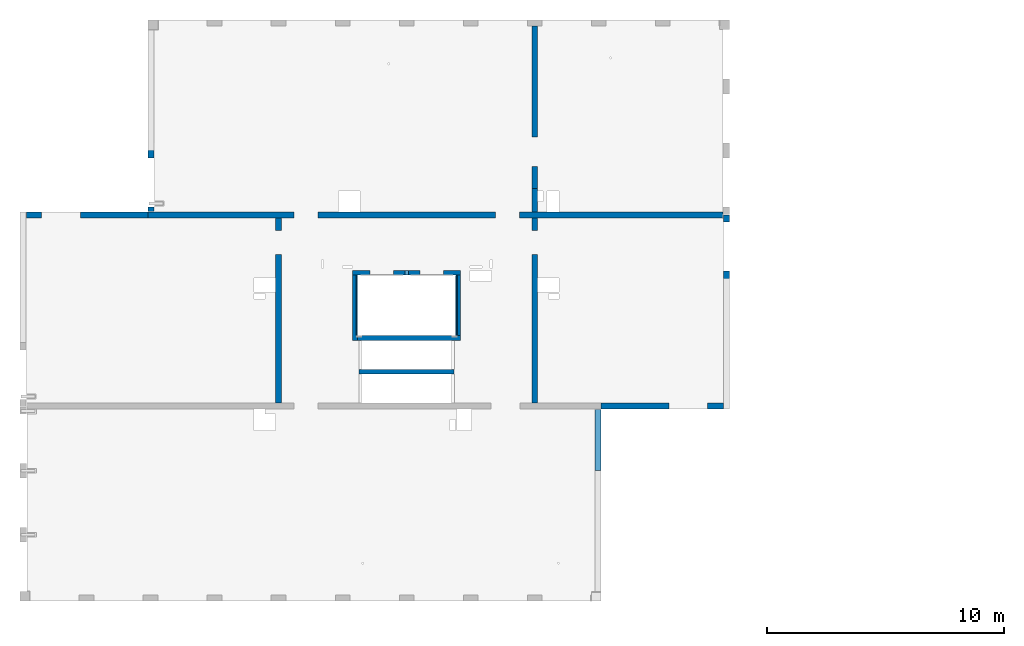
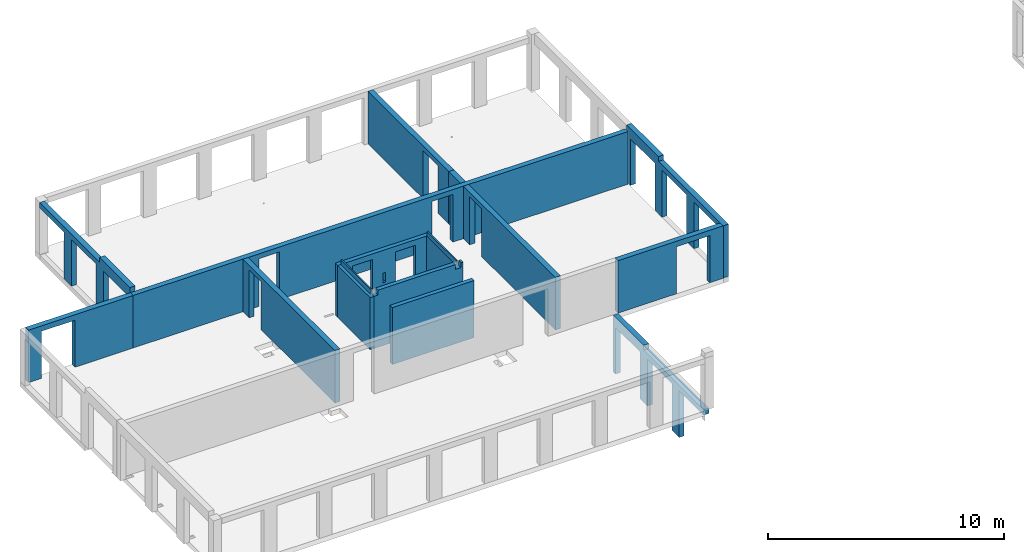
# One storey, part 3 of 12: 17 walls, 24 openings.
"""IFC2X3 building model written with IfcOpenShell, lengths in millimetres."""

from ifc_helpers import new_model, entity, si_unit, converted_unit, derived_unit, direction, frame, frame_2d, origin, origin_2d_with_axis, place, context, subcontext, project, spatial, rectangle, extrude, material, layer, layer_set, layer_usage, type_object, element, save


model = new_model("IFC2X3")

# Units and contexts
model_context = context("Model", 3, precision=0.01, world=origin(), true_north=direction((6.12303176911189e-17, 1.0)))
body_context = subcontext(model_context, "Body", "Model", "MODEL_VIEW")
ifc_project = project(units=[si_unit("LENGTHUNIT", "METRE", prefix="MILLI"), si_unit("AREAUNIT", "SQUARE_METRE"), si_unit("VOLUMEUNIT", "CUBIC_METRE"), converted_unit("PLANEANGLEUNIT", "DEGREE", entity("IfcRatioMeasure", 0.0174532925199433), si_unit("PLANEANGLEUNIT", "RADIAN"), dimensions=[0, 0, 0, 0, 0, 0, 0]), si_unit("MASSUNIT", "GRAM", prefix="KILO"), derived_unit("MASSDENSITYUNIT", [(si_unit("MASSUNIT", "GRAM", prefix="KILO"), 1), (si_unit("LENGTHUNIT", "METRE"), -3)]), si_unit("TIMEUNIT", "SECOND"), si_unit("FREQUENCYUNIT", "HERTZ"), si_unit("THERMODYNAMICTEMPERATUREUNIT", "DEGREE_CELSIUS"), derived_unit("THERMALTRANSMITTANCEUNIT", [(si_unit("MASSUNIT", "GRAM", prefix="KILO"), 1), (si_unit("THERMODYNAMICTEMPERATUREUNIT", "KELVIN"), -1), (si_unit("TIMEUNIT", "SECOND"), -3)]), derived_unit("VOLUMETRICFLOWRATEUNIT", [(si_unit("LENGTHUNIT", "METRE"), 3), (si_unit("TIMEUNIT", "SECOND"), -1)]), si_unit("ELECTRICCURRENTUNIT", "AMPERE"), si_unit("ELECTRICVOLTAGEUNIT", "VOLT"), si_unit("POWERUNIT", "WATT"), si_unit("FORCEUNIT", "NEWTON", prefix="KILO"), si_unit("ILLUMINANCEUNIT", "LUX"), si_unit("LUMINOUSFLUXUNIT", "LUMEN"), si_unit("LUMINOUSINTENSITYUNIT", "CANDELA"), derived_unit("USERDEFINED", [(si_unit("MASSUNIT", "GRAM", prefix="KILO"), -1), (si_unit("LENGTHUNIT", "METRE"), -2), (si_unit("TIMEUNIT", "SECOND"), 3), (si_unit("LUMINOUSFLUXUNIT", "LUMEN"), 1)]), derived_unit("LINEARVELOCITYUNIT", [(si_unit("LENGTHUNIT", "METRE"), 1), (si_unit("TIMEUNIT", "SECOND"), -1)]), si_unit("PRESSUREUNIT", "PASCAL"), derived_unit("USERDEFINED", [(si_unit("LENGTHUNIT", "METRE"), -2), (si_unit("MASSUNIT", "GRAM", prefix="KILO"), 1), (si_unit("TIMEUNIT", "SECOND"), -2)])], contexts=[model_context])

# Site, building, storey
site_placement = place(None, origin())
site = spatial("IfcSite", under=ifc_project, at=site_placement, Name="Default", CompositionType="ELEMENT")
building_placement = place(site_placement, origin())
building = spatial("IfcBuilding", under=site, at=building_placement, Name="niet gebruiken", CompositionType="ELEMENT")
storey_placement = place(building_placement, frame((0.0, 0.0, 24480.0)))
storey = spatial("IfcBuildingStorey", under=building, at=storey_placement, Name="08 achtste verdieping", CompositionType="ELEMENT", Elevation=24480.0)

# Wall, opening
ifc_material_1 = material(Name="NLRS_f2_beton ihwg")
ifc_layer_1 = layer(ifc_material_1, 250.0)
ifc_layer_set_1 = layer_set([ifc_layer_1], Name="Basic Wall:NLRS_22.21_WA_beton ihwg d=250_gen")
ifc_layer_usage_1 = layer_usage(ifc_layer_set_1, "AXIS2", "NEGATIVE", 125.0)
wall_type_1 = type_object("IfcWallType", Name="Basic Wall:NLRS_22.21_WA_beton ihwg d=250_gen", PredefinedType="STANDARD", material=ifc_layer_set_1)
wall_1_placement = place(storey_placement, frame((27170.0, 45031.0, -90.0)))
wall_1 = element("IfcWallStandardCase", 1, at=wall_1_placement, inside=storey, type_object=wall_type_1, material=ifc_layer_usage_1, Name="Basic Wall:NLRS_22.21_WA_beton ihwg d=250_gen", ObjectType="Basic Wall:NLRS_22.21_WA_beton ihwg d=250_gen", context=body_context, shape_type="SweptSolid", body=[
    extrude(rectangle(XDim=5130.0, YDim=249.999999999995, at=frame_2d((2565.0, 0.0), x_axis=(-1.0, 0.0))), origin(), (0.0, 0.0, 1.0), 2719.99999999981),
])
opening_1_placement = place(wall_1_placement, origin())
element("IfcOpeningElement", 2, at=opening_1_placement, cuts=wall_1, Name="Basic Wall:NLRS_22.21_WA_beton ihwg d=250_gen", ObjectType="Opening", context=body_context, shape_type="SweptSolid", body=[
    extrude(rectangle(XDim=2440.0, YDim=1640.0, at=origin_2d_with_axis()), frame((1460.0, -1649.0, 1220.0), z_axis=(0.0, 1.0, 0.0), x_axis=(0.0, 0.0, 1.0)), (0.0, 0.0, 1.0), 3048.0),
])

ifc_layer_usage_2 = layer_usage(ifc_layer_set_1, "AXIS2", "NEGATIVE", 125.0)
wall_2_placement = place(storey_placement, frame((37800.0, 44906.0, -90.0), z_axis=(0.0, 0.0, 1.0), x_axis=(0.0, -1.0, 0.0)))
wall_2 = element("IfcWallStandardCase", 3, at=wall_2_placement, inside=storey, type_object=wall_type_1, material=ifc_layer_usage_2, Name="Basic Wall:NLRS_22.21_WA_beton ihwg d=250_gen", ObjectType="Basic Wall:NLRS_22.21_WA_beton ihwg d=250_gen", context=body_context, shape_type="SweptSolid", body=[
    extrude(rectangle(XDim=7799.99999999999, YDim=250.000000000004, at=frame_2d((3900.0, 0.0), x_axis=(-1.0, 0.0))), origin(), (0.0, 0.0, 1.0), 2719.99999999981),
])
opening_2_placement = place(wall_2_placement, origin())
element("IfcOpeningElement", 4, at=opening_2_placement, cuts=wall_2, Name="Basic Wall:NLRS_22.21_WA_beton ihwg d=250_gen", ObjectType="Opening", context=body_context, shape_type="SweptSolid", body=[
    extrude(rectangle(XDim=2470.0, YDim=1006.0, at=frame_2d((-4.43378667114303e-12, 0.0), x_axis=(1.0, 0.0))), frame((1027.0, -1649.0, 1235.0), z_axis=(0.0, 1.0, 0.0), x_axis=(0.0, 0.0, 1.0)), (0.0, 0.0, 1.0), 3048.0),
])

ifc_layer_usage_3 = layer_usage(ifc_layer_set_1, "AXIS2", "NEGATIVE", 125.0)
wall_3_placement = place(storey_placement, frame((48600.0, 53006.0, -90.0), z_axis=(0.0, 0.0, 1.0), x_axis=(0.0, -1.0, 0.0)))
wall_3 = element("IfcWallStandardCase", 5, at=wall_3_placement, inside=storey, type_object=wall_type_1, material=ifc_layer_usage_3, Name="Basic Wall:NLRS_22.21_WA_beton ihwg d=250_gen", ObjectType="Basic Wall:NLRS_22.21_WA_beton ihwg d=250_gen", context=body_context, shape_type="SweptSolid", body=[
    extrude(rectangle(XDim=6850.00000000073, YDim=249.999999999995, at=frame_2d((3425.00000000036, -1.10134124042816e-12), x_axis=(-1.0, 0.0))), origin(), (0.0, 0.0, 1.0), 2719.99999999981),
])
opening_3_placement = place(wall_3_placement, origin())
element("IfcOpeningElement", 6, at=opening_3_placement, cuts=wall_3, Name="Basic Wall:NLRS_22.21_WA_beton ihwg d=250_gen", ObjectType="Opening", context=body_context, shape_type="SweptSolid", body=[
    extrude(rectangle(XDim=2470.0, YDim=1240.0, at=frame_2d((-4.43378667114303e-12, 4.37694325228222e-12), x_axis=(1.0, 0.0))), frame((5300.0, -1649.0, 1235.0), z_axis=(0.0, 1.0, 0.0), x_axis=(0.0, 0.0, 1.0)), (0.0, 0.0, 1.0), 3048.0),
])

ifc_layer_usage_4 = layer_usage(ifc_layer_set_1, "AXIS2", "NEGATIVE", 125.0)
wall_4_placement = place(storey_placement, frame((48600.0, 44906.0, -90.0), z_axis=(0.0, 0.0, 1.0), x_axis=(0.0, -1.0, 0.0)))
wall_4 = element("IfcWallStandardCase", 7, at=wall_4_placement, inside=storey, type_object=wall_type_1, material=ifc_layer_usage_4, Name="Basic Wall:NLRS_22.21_WA_beton ihwg d=250_gen", ObjectType="Basic Wall:NLRS_22.21_WA_beton ihwg d=250_gen", context=body_context, shape_type="SweptSolid", body=[
    extrude(rectangle(XDim=7799.99999999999, YDim=249.999999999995, at=frame_2d((3900.0, 0.0), x_axis=(-1.0, 0.0))), origin(), (0.0, 0.0, 1.0), 2719.99999999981),
])
opening_4_placement = place(wall_4_placement, origin())
element("IfcOpeningElement", 8, at=opening_4_placement, cuts=wall_4, Name="Basic Wall:NLRS_22.21_WA_beton ihwg d=250_gen", ObjectType="Opening", context=body_context, shape_type="SweptSolid", body=[
    extrude(rectangle(XDim=2470.0, YDim=1006.0, at=origin_2d_with_axis()), frame((1027.0, -1649.0, 1235.0), z_axis=(0.0, 1.0, 0.0), x_axis=(0.0, 0.0, 1.0)), (0.0, 0.0, 1.0), 3048.0),
])

# Wall, openings
ifc_layer_usage_5 = layer_usage(ifc_layer_set_1, "AXIS2", "NEGATIVE", 125.0)
wall_5_placement = place(storey_placement, frame((32300.0, 45031.0, -90.0)))
wall_5 = element("IfcWallStandardCase", 9, at=wall_5_placement, inside=storey, type_object=wall_type_1, material=ifc_layer_usage_5, Name="Basic Wall:NLRS_22.21_WA_beton ihwg d=250_gen", ObjectType="Basic Wall:NLRS_22.21_WA_beton ihwg d=250_gen", context=body_context, shape_type="SweptSolid", body=[
    extrude(rectangle(XDim=24230.0000000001, YDim=249.999999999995, at=frame_2d((12115.0000000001, 0.0), x_axis=(-1.0, 0.0))), origin(), (0.0, 0.0, 1.0), 2719.99999999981),
])
opening_5_placement = place(wall_5_placement, origin())
element("IfcOpeningElement", 10, at=opening_5_placement, cuts=wall_5, Name="Basic Wall:NLRS_22.21_WA_beton ihwg d=250_gen", ObjectType="Opening", context=body_context, shape_type="SweptSolid", body=[
    extrude(rectangle(XDim=2470.0, YDim=1006.0, at=origin_2d_with_axis()), frame((15148.0, -1649.0, 1235.0), z_axis=(0.0, 1.0, 0.0), x_axis=(0.0, 0.0, 1.0)), (0.0, 0.0, 1.0), 3048.0),
])
opening_6_placement = place(wall_5_placement, origin())
element("IfcOpeningElement", 11, at=opening_6_placement, cuts=wall_5, Name="Basic Wall:NLRS_22.21_WA_beton ihwg d=250_gen", ObjectType="Opening", context=body_context, shape_type="SweptSolid", body=[
    extrude(rectangle(XDim=2470.0, YDim=1006.0, at=frame_2d((0.0, -2.1600499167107e-12), x_axis=(1.0, 0.0))), frame((6652.0, -1649.0, 1235.0), z_axis=(0.0, 1.0, 0.0), x_axis=(0.0, 0.0, 1.0)), (0.0, 0.0, 1.0), 3048.0),
])

# Wall, opening
ifc_layer_usage_6 = layer_usage(ifc_layer_set_1, "AXIS2", "NEGATIVE", 125.0)
wall_6_placement = place(storey_placement, frame((51400.0, 36981.0, -90.0)))
wall_6 = element("IfcWallStandardCase", 12, at=wall_6_placement, inside=storey, type_object=wall_type_1, material=ifc_layer_usage_6, Name="Basic Wall:NLRS_22.21_WA_beton ihwg d=250_gen", ObjectType="Basic Wall:NLRS_22.21_WA_beton ihwg d=250_gen", context=body_context, shape_type="SweptSolid", body=[
    extrude(rectangle(XDim=5150.0, YDim=250.000000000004, at=frame_2d((2575.0, 0.0), x_axis=(-1.0, 0.0))), origin(), (0.0, 0.0, 1.0), 2719.99999999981),
])
opening_7_placement = place(wall_6_placement, origin())
element("IfcOpeningElement", 13, at=opening_7_placement, cuts=wall_6, Name="Basic Wall:NLRS_22.21_WA_beton ihwg d=250_gen", ObjectType="Opening", context=body_context, shape_type="SweptSolid", body=[
    extrude(rectangle(XDim=2440.0, YDim=1640.0, at=frame_2d((4.37694325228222e-12, -2.1600499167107e-12), x_axis=(0.0, 1.0))), frame((3670.0, -1399.0, 1220.0), z_axis=(0.0, 1.0, 0.0), x_axis=(-1.0, 0.0, 0.0)), (0.0, 0.0, 1.0), 3048.0),
])

# Wall
ifc_layer_usage_7 = layer_usage(ifc_layer_set_1, "AXIS2", "NEGATIVE", 125.0)
wall_7_placement = place(storey_placement, frame((48600.0, 46156.0, -90.0), z_axis=(0.0, 0.0, 1.0), x_axis=(0.0, -1.0, 0.0)))
element("IfcWallStandardCase", 14, at=wall_7_placement, inside=storey, type_object=wall_type_1, material=ifc_layer_usage_7, Name="Basic Wall:NLRS_22.21_WA_beton ihwg d=250_gen", ObjectType="Basic Wall:NLRS_22.21_WA_beton ihwg d=250_gen", context=body_context, shape_type="SweptSolid", body=[
    extrude(rectangle(XDim=999.999999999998, YDim=249.999999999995, at=frame_2d((499.999999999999, 1.10134124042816e-12), x_axis=(-1.0, 0.0))), origin(), (0.0, 0.0, 1.0), 2719.99999999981),
])

# Wall, openings
ifc_material_2 = material(Name="NLRS_f2_beton prefab")
ifc_layer_2 = layer(ifc_material_2, 250.0)
ifc_layer_set_2 = layer_set([ifc_layer_2], Name="Basic Wall:NLRS_21.21_WA_beton prefab d=250_gen")
ifc_layer_usage_8 = layer_usage(ifc_layer_set_2, "AXIS2", "NEGATIVE", 125.0)
wall_type_2 = type_object("IfcWallType", Name="Basic Wall:NLRS_21.21_WA_beton prefab d=250_gen", PredefinedType="STANDARD", material=ifc_layer_set_2)
wall_8_placement = place(storey_placement, frame((51275.0, 29166.0, -3040.0), z_axis=(0.0, 0.0, 1.0), x_axis=(0.0, 1.0, 0.0)))
wall_8 = element("IfcWallStandardCase", 15, at=wall_8_placement, inside=storey, type_object=wall_type_2, material=ifc_layer_usage_8, Name="Basic Wall:NLRS_21.21_WA_beton prefab d=250_gen", ObjectType="Basic Wall:NLRS_21.21_WA_beton prefab d=250_gen", context=body_context, shape_type="SweptSolid", body=[
    extrude(rectangle(XDim=7669.99999999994, YDim=249.999999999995, at=frame_2d((3834.99999999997, 0.0), x_axis=(-1.0, 0.0))), origin(), (0.0, 0.0, 1.0), 2949.99999999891),
])
opening_8_placement = place(wall_8_placement, origin())
element("IfcOpeningElement", 16, at=opening_8_placement, cuts=wall_8, Name="Basic Wall:NLRS_21.21_WA_beton prefab d=250_gen", ObjectType="Opening", context=body_context, shape_type="SweptSolid", body=[
    extrude(rectangle(XDim=2420.0, YDim=2080.0, at=frame_2d((-2.1600499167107e-12, 2.1600499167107e-12), x_axis=(0.0, 1.0))), frame((1040.0, -1399.0, 1210.0), z_axis=(0.0, 1.0, 0.0), x_axis=(-1.0, 0.0, 0.0)), (0.0, 0.0, 1.0), 3048.0),
])
opening_9_placement = place(wall_8_placement, origin())
element("IfcOpeningElement", 17, at=opening_9_placement, cuts=wall_8, Name="Basic Wall:NLRS_21.21_WA_beton prefab d=250_gen", ObjectType="Opening", context=body_context, shape_type="SweptSolid", body=[
    extrude(rectangle(XDim=2420.0, YDim=2080.0, at=frame_2d((2.1600499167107e-12, -2.1600499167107e-12), x_axis=(0.0, 1.0))), frame((3740.0, -1399.0, 1210.0), z_axis=(0.0, 1.0, 0.0), x_axis=(-1.0, 0.0, 0.0)), (0.0, 0.0, 1.0), 3048.0),
])
opening_10_placement = place(wall_8_placement, origin())
element("IfcOpeningElement", 18, at=opening_10_placement, cuts=wall_8, Name="Basic Wall:NLRS_21.21_WA_beton prefab d=250_gen", ObjectType="Opening", context=body_context, shape_type="SweptSolid", body=[
    extrude(rectangle(XDim=2420.0, YDim=2080.0, at=frame_2d((2.1600499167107e-12, -2.1600499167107e-12), x_axis=(0.0, 1.0))), frame((6440.0, -1399.0, 1210.0), z_axis=(0.0, 1.0, 0.0), x_axis=(-1.0, 0.0, 0.0)), (0.0, 0.0, 1.0), 3048.0),
])
opening_11_placement = place(wall_8_placement, origin())
element("IfcOpeningElement", 19, at=opening_11_placement, cuts=wall_8, Name="Basic Wall:NLRS_21.21_WA_beton prefab d=250_gen", ObjectType="Opening", context=body_context, shape_type="SweptSolid", body=[
    extrude(rectangle(XDim=249.999999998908, YDim=5090.00000000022, at=frame_2d((0.0, -2.16715534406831e-12), x_axis=(0.0, 1.0))), frame((2545.0, 125.0, 2825.0), z_axis=(0.0, -1.0, 0.0), x_axis=(-1.0, 0.0, 0.0)), (0.0, 0.0, 1.0), 250.0),
])

ifc_layer_usage_9 = layer_usage(ifc_layer_set_2, "AXIS2", "NEGATIVE", 125.0)
wall_9_placement = place(storey_placement, frame((32425.0, 52846.0, -70.0), z_axis=(0.0, 0.0, 1.0), x_axis=(0.0, -1.0, 0.0)))
wall_9 = element("IfcWallStandardCase", 20, at=wall_9_placement, inside=storey, type_object=wall_type_2, material=ifc_layer_usage_9, Name="Basic Wall:NLRS_21.21_WA_beton prefab d=250_gen", ObjectType="Basic Wall:NLRS_21.21_WA_beton prefab d=250_gen", context=body_context, shape_type="SweptSolid", body=[
    extrude(rectangle(XDim=7670.00000000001, YDim=250.000000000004, at=frame_2d((3835.0, 0.0), x_axis=(-1.0, 0.0))), origin(), (0.0, 0.0, 1.0), 2949.99999999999),
])
opening_12_placement = place(wall_9_placement, origin())
element("IfcOpeningElement", 21, at=opening_12_placement, cuts=wall_9, Name="Basic Wall:NLRS_21.21_WA_beton prefab d=250_gen", ObjectType="Opening", context=body_context, shape_type="SweptSolid", body=[
    extrude(rectangle(XDim=2420.0, YDim=2080.0, at=frame_2d((8.64019966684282e-12, 2.1600499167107e-12), x_axis=(0.0, 1.0))), frame((1040.0, -1399.0, 1210.0), z_axis=(0.0, 1.0, 0.0), x_axis=(-1.0, 0.0, 0.0)), (0.0, 0.0, 1.0), 3048.0),
])
opening_13_placement = place(wall_9_placement, origin())
element("IfcOpeningElement", 22, at=opening_13_placement, cuts=wall_9, Name="Basic Wall:NLRS_21.21_WA_beton prefab d=250_gen", ObjectType="Opening", context=body_context, shape_type="SweptSolid", body=[
    extrude(rectangle(XDim=2420.0, YDim=2080.0, at=frame_2d((0.0, -2.1600499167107e-12), x_axis=(0.0, 1.0))), frame((3740.0, -1399.0, 1210.0), z_axis=(0.0, 1.0, 0.0), x_axis=(-1.0, 0.0, 0.0)), (0.0, 0.0, 1.0), 3048.0),
])
opening_14_placement = place(wall_9_placement, origin())
element("IfcOpeningElement", 23, at=opening_14_placement, cuts=wall_9, Name="Basic Wall:NLRS_21.21_WA_beton prefab d=250_gen", ObjectType="Opening", context=body_context, shape_type="SweptSolid", body=[
    extrude(rectangle(XDim=2420.0, YDim=2080.0, at=frame_2d((0.0, 2.1600499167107e-12), x_axis=(0.0, 1.0))), frame((6440.0, -1399.0, 1210.0), z_axis=(0.0, 1.0, 0.0), x_axis=(-1.0, 0.0, 0.0)), (0.0, 0.0, 1.0), 3048.0),
])
opening_15_placement = place(wall_9_placement, origin())
element("IfcOpeningElement", 24, at=opening_15_placement, cuts=wall_9, Name="Basic Wall:NLRS_21.21_WA_beton prefab d=250_gen", ObjectType="Opening", context=body_context, shape_type="SweptSolid", body=[
    extrude(rectangle(XDim=250.000000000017, YDim=5089.99999999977, at=frame_2d((4.32009983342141e-12, -2.16715534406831e-12), x_axis=(0.0, 1.0))), frame((2545.0, 125.0, 2825.0), z_axis=(0.0, -1.0, 0.0), x_axis=(-1.0, 0.0, 0.0)), (0.0, 0.0, 1.0), 250.0),
])

ifc_layer_usage_10 = layer_usage(ifc_layer_set_2, "AXIS2", "NEGATIVE", 125.0)
wall_10_placement = place(storey_placement, frame((56675.0, 45046.0, -70.0), z_axis=(0.0, 0.0, 1.0), x_axis=(0.0, -1.0, 0.0)))
wall_10 = element("IfcWallStandardCase", 25, at=wall_10_placement, inside=storey, type_object=wall_type_2, material=ifc_layer_usage_10, Name="Basic Wall:NLRS_21.21_WA_beton prefab d=250_gen", ObjectType="Basic Wall:NLRS_21.21_WA_beton prefab d=250_gen", context=body_context, shape_type="SweptSolid", body=[
    extrude(rectangle(XDim=8189.99999999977, YDim=249.999999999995, at=frame_2d((4094.99999999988, 0.0), x_axis=(-1.0, 0.0))), origin(), (0.0, 0.0, 1.0), 2949.99999999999),
])
opening_16_placement = place(wall_10_placement, origin())
element("IfcOpeningElement", 26, at=opening_16_placement, cuts=wall_10, Name="Basic Wall:NLRS_21.21_WA_beton prefab d=250_gen", ObjectType="Opening", context=body_context, shape_type="SweptSolid", body=[
    extrude(rectangle(XDim=2420.0, YDim=2080.0, at=frame_2d((0.0, -2.1600499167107e-12), x_axis=(0.0, 1.0))), frame((1340.0, -1399.0, 1210.0), z_axis=(0.0, 1.0, 0.0), x_axis=(-1.0, 0.0, 0.0)), (0.0, 0.0, 1.0), 3048.0),
])
opening_17_placement = place(wall_10_placement, origin())
element("IfcOpeningElement", 27, at=opening_17_placement, cuts=wall_10, Name="Basic Wall:NLRS_21.21_WA_beton prefab d=250_gen", ObjectType="Opening", context=body_context, shape_type="SweptSolid", body=[
    extrude(rectangle(XDim=2420.0, YDim=2080.0, at=frame_2d((0.0, -2.1600499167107e-12), x_axis=(0.0, 1.0))), frame((4040.0, -1399.0, 1210.0), z_axis=(0.0, 1.0, 0.0), x_axis=(-1.0, 0.0, 0.0)), (0.0, 0.0, 1.0), 3048.0),
])
opening_18_placement = place(wall_10_placement, origin())
element("IfcOpeningElement", 28, at=opening_18_placement, cuts=wall_10, Name="Basic Wall:NLRS_21.21_WA_beton prefab d=250_gen", ObjectType="Opening", context=body_context, shape_type="SweptSolid", body=[
    extrude(rectangle(XDim=2420.0, YDim=2080.0, at=frame_2d((0.0, -2.1600499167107e-12), x_axis=(0.0, 1.0))), frame((6740.0, -1399.0, 1210.0), z_axis=(0.0, 1.0, 0.0), x_axis=(-1.0, 0.0, 0.0)), (0.0, 0.0, 1.0), 3048.0),
])
opening_19_placement = place(wall_10_placement, origin())
element("IfcOpeningElement", 29, at=opening_19_placement, cuts=wall_10, Name="Basic Wall:NLRS_21.21_WA_beton prefab d=250_gen", ObjectType="Opening", context=body_context, shape_type="SweptSolid", body=[
    extrude(rectangle(XDim=249.999999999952, YDim=5500.0000000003, at=frame_2d((0.0, -4.32009983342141e-12), x_axis=(1.0, 0.0))), frame((5440.0, 125.0, 2825.0), z_axis=(0.0, -1.0, 0.0), x_axis=(0.0, 0.0, 1.0)), (0.0, 0.0, 1.0), 250.0),
])

# Wall
ifc_layer_3 = layer(ifc_material_2, 200.0)
ifc_layer_set_3 = layer_set([ifc_layer_3], Name="Basic Wall:NLRS_21.21_WA_beton prefab d=200_gen")
ifc_layer_usage_11 = layer_usage(ifc_layer_set_3, "AXIS2", "NEGATIVE", 100.0)
wall_type_3 = type_object("IfcWallType", Name="Basic Wall:NLRS_21.21_WA_beton prefab d=200_gen", PredefinedType="STANDARD", material=ifc_layer_set_3)
wall_11_placement = place(storey_placement, frame((41200.0, 38426.0, -70.0)))
element("IfcWallStandardCase", 30, at=wall_11_placement, inside=storey, type_object=wall_type_3, material=ifc_layer_usage_11, Name="Basic Wall:NLRS_21.21_WA_beton prefab d=200_gen", ObjectType="Basic Wall:NLRS_21.21_WA_beton prefab d=200_gen", context=body_context, shape_type="SweptSolid", body=[
    extrude(rectangle(XDim=3999.99999999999, YDim=199.999999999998, at=frame_2d((2000.0, 0.0), x_axis=(-1.0, 0.0))), origin(), (0.0, 0.0, 1.0), 2950.00000000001),
])

# Wall, openings
ifc_layer_4 = layer(ifc_material_2, 200.0)
ifc_layer_set_4 = layer_set([ifc_layer_4], Name="Basic Wall:NLRS_22.21_WA_beton prefab d=200_gen")
ifc_layer_usage_12 = layer_usage(ifc_layer_set_4, "AXIS2", "NEGATIVE", 100.0)
wall_type_4 = type_object("IfcWallType", Name="Basic Wall:NLRS_22.21_WA_beton prefab d=200_gen", PredefinedType="STANDARD", material=ifc_layer_set_4)
wall_12_placement = place(storey_placement, frame((40925.0, 42596.0, -70.0)))
wall_12 = element("IfcWallStandardCase", 31, at=wall_12_placement, inside=storey, type_object=wall_type_4, material=ifc_layer_usage_12, Name="Basic Wall:NLRS_22.21_WA_beton prefab d=200_gen", ObjectType="Basic Wall:NLRS_22.21_WA_beton prefab d=200_gen", context=body_context, shape_type="SweptSolid", body=[
    extrude(rectangle(XDim=4549.99999999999, YDim=200.000000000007, at=frame_2d((2274.99999999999, 7.8159700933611e-13), x_axis=(-1.0, 0.0))), origin(), (0.0, 0.0, 1.0), 2700.00000000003),
])
opening_20_placement = place(wall_12_placement, origin())
element("IfcOpeningElement", 32, at=opening_20_placement, cuts=wall_12, Name="Basic Wall:NLRS_22.21_WA_beton prefab d=200_gen", ObjectType="Opening", context=body_context, shape_type="SweptSolid", body=[
    extrude(rectangle(XDim=2430.0, YDim=980.000000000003, at=origin_2d_with_axis()), frame((1219.99984910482, -1624.0, 1195.0), z_axis=(0.0, 1.0, 0.0), x_axis=(0.0, 0.0, 1.0)), (0.0, 0.0, 1.0), 3048.0),
])
opening_21_placement = place(wall_12_placement, origin())
element("IfcOpeningElement", 33, at=opening_21_placement, cuts=wall_12, Name="Basic Wall:NLRS_22.21_WA_beton prefab d=200_gen", ObjectType="Opening", context=body_context, shape_type="SweptSolid", body=[
    extrude(rectangle(XDim=2430.0, YDim=980.000000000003, at=origin_2d_with_axis()), frame((3329.99984910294, -1624.0, 1195.0), z_axis=(0.0, 1.0, 0.0), x_axis=(0.0, 0.0, 1.0)), (0.0, 0.0, 1.0), 3048.0),
])
opening_22_placement = place(wall_12_placement, origin())
element("IfcOpeningElement", 34, at=opening_22_placement, cuts=wall_12, Name="Basic Wall:NLRS_22.21_WA_beton prefab d=200_gen", ObjectType="Opening", context=body_context, shape_type="SweptSolid", body=[
    extrude(rectangle(XDim=504.999999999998, YDim=135.000000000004, at=frame_2d((-2.1600499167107e-12, 0.0), x_axis=(1.0, 0.0))), frame((2275.0, -1624.0, 1272.5), z_axis=(0.0, 1.0, 0.0), x_axis=(0.0, 0.0, 1.0)), (0.0, 0.0, 1.0), 3048.0),
])

# Wall
ifc_layer_usage_13 = layer_usage(ifc_layer_set_4, "AXIS2", "NEGATIVE", 100.0)
wall_13_placement = place(storey_placement, frame((41025.0, 42496.0, -70.0), z_axis=(0.0, 0.0, 1.0), x_axis=(0.0, -1.0, 0.0)))
element("IfcWallStandardCase", 35, at=wall_13_placement, inside=storey, type_object=wall_type_4, material=ifc_layer_usage_13, Name="Basic Wall:NLRS_22.21_WA_beton prefab d=200_gen", ObjectType="Basic Wall:NLRS_22.21_WA_beton prefab d=200_gen", context=body_context, shape_type="SweptSolid", body=[
    extrude(rectangle(XDim=2749.99999999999, YDim=200.000000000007, at=frame_2d((1375.0, 0.0), x_axis=(-1.0, 0.0))), origin(), (0.0, 0.0, 1.0), 2700.00000000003),
])

# Wall, openings
ifc_layer_usage_14 = layer_usage(ifc_layer_set_4, "AXIS2", "NEGATIVE", 100.0)
wall_14_placement = place(storey_placement, frame((45475.0, 39846.0, -70.0), z_axis=(0.0, 0.0, 1.0), x_axis=(-1.0, 0.0, 0.0)))
wall_14 = element("IfcWallStandardCase", 36, at=wall_14_placement, inside=storey, type_object=wall_type_4, material=ifc_layer_usage_14, Name="Basic Wall:NLRS_22.21_WA_beton prefab d=200_gen", ObjectType="Basic Wall:NLRS_22.21_WA_beton prefab d=200_gen", context=body_context, shape_type="SweptSolid", body=[
    extrude(rectangle(XDim=4349.99999999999, YDim=200.000000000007, at=frame_2d((2174.99999999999, 0.0), x_axis=(-1.0, 0.0))), origin(), (0.0, 0.0, 1.0), 2949.99999999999),
])
opening_23_placement = place(wall_14_placement, origin())
element("IfcOpeningElement", 37, at=opening_23_placement, cuts=wall_14, Name="Basic Wall:NLRS_22.21_WA_beton prefab d=200_gen", ObjectType="Opening", context=body_context, shape_type="SweptSolid", body=[
    extrude(rectangle(XDim=249.999999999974, YDim=274.9999671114, at=frame_2d((-2.16715534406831e-12, -4.33431068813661e-12), x_axis=(1.0, 0.0))), frame((4312.50001644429, 100.0, 2825.0), z_axis=(0.0, -1.0, 0.0), x_axis=(0.0, 0.0, 1.0)), (0.0, 0.0, 1.0), 200.0),
])
opening_24_placement = place(wall_14_placement, origin())
element("IfcOpeningElement", 38, at=opening_24_placement, cuts=wall_14, Name="Basic Wall:NLRS_22.21_WA_beton prefab d=200_gen", ObjectType="Opening", context=body_context, shape_type="SweptSolid", body=[
    extrude(rectangle(XDim=249.999999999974, YDim=275.000032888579, at=frame_2d((4.32009983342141e-12, 2.16715534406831e-12), x_axis=(0.0, 1.0))), frame((237.500016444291, 100.0, 2825.0), z_axis=(0.0, -1.0, 0.0), x_axis=(-1.0, 0.0, 0.0)), (0.0, 0.0, 1.0), 200.0),
])

# Walls
ifc_layer_usage_15 = layer_usage(ifc_layer_set_4, "AXIS2", "NEGATIVE", 100.0)
wall_15_placement = place(storey_placement, frame((45375.0, 39946.0, -70.0), z_axis=(0.0, 0.0, 1.0), x_axis=(0.0, 1.0, 0.0)))
element("IfcWallStandardCase", 39, at=wall_15_placement, inside=storey, type_object=wall_type_4, material=ifc_layer_usage_15, Name="Basic Wall:NLRS_22.21_WA_beton prefab d=200_gen", ObjectType="Basic Wall:NLRS_22.21_WA_beton prefab d=200_gen", context=body_context, shape_type="SweptSolid", body=[
    extrude(rectangle(XDim=2549.99999999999, YDim=200.000000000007, at=frame_2d((1275.0, 0.0), x_axis=(-1.0, 0.0))), origin(), (0.0, 0.0, 1.0), 2700.00000000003),
])
ifc_layer_5 = layer(ifc_material_2, 60.0)
ifc_layer_set_5 = layer_set([ifc_layer_5], Name="Basic Wall:NLRS_22.21_WA_beton prefab d=60_gen")
ifc_layer_usage_16 = layer_usage(ifc_layer_set_5, "AXIS2", "NEGATIVE", 30.0)
wall_type_5 = type_object("IfcWallType", Name="Basic Wall:NLRS_22.21_WA_beton prefab d=60_gen", PredefinedType="STANDARD", material=ifc_layer_set_5)
wall_16_placement = place(storey_placement, frame((41095.0, 42476.0, 2630.0), z_axis=(0.0, 0.0, 1.0), x_axis=(0.0, -1.0, 0.0)))
element("IfcWallStandardCase", 40, at=wall_16_placement, inside=storey, type_object=wall_type_5, material=ifc_layer_usage_16, Name="Basic Wall:NLRS_22.21_WA_beton prefab d=60_gen", ObjectType="Basic Wall:NLRS_22.21_WA_beton prefab d=60_gen", context=body_context, shape_type="SweptSolid", body=[
    extrude(rectangle(XDim=2509.99999999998, YDim=60.0000000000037, at=frame_2d((1254.99999999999, 0.0), x_axis=(-1.0, 0.0))), origin(), (0.0, 0.0, 1.0), 250.000000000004),
])
ifc_layer_usage_17 = layer_usage(ifc_layer_set_5, "AXIS2", "POSITIVE", -30.0)
wall_17_placement = place(storey_placement, frame((45305.0, 42476.0, 2630.0), z_axis=(0.0, 0.0, 1.0), x_axis=(0.0, -1.0, 0.0)))
element("IfcWallStandardCase", 41, at=wall_17_placement, inside=storey, type_object=wall_type_5, material=ifc_layer_usage_17, Name="Basic Wall:NLRS_22.21_WA_beton prefab d=60_gen", ObjectType="Basic Wall:NLRS_22.21_WA_beton prefab d=60_gen", context=body_context, shape_type="SweptSolid", body=[
    extrude(rectangle(XDim=2509.99999999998, YDim=60.0000000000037, at=frame_2d((1254.99999999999, 0.0), x_axis=(-1.0, 0.0))), origin(), (0.0, 0.0, 1.0), 250.000000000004),
])

save(model, "model.ifc")
